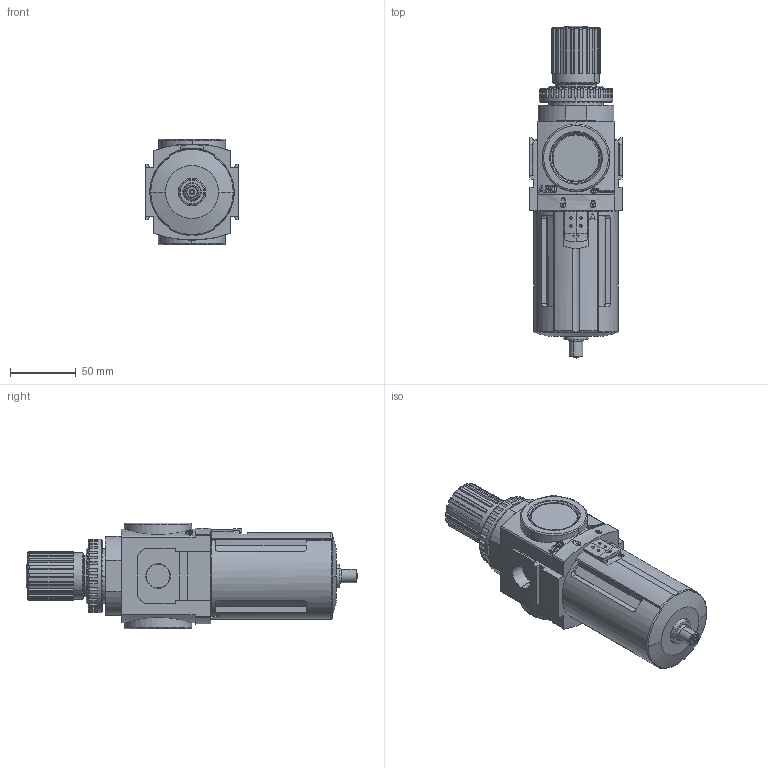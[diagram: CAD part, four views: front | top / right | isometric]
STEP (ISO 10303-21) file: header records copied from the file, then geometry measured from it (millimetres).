
FILE_DESCRIPTION(/* description */ (''),/* implementation_level */ '2;1');
FILE_NAME(/* name */ 'P393XX-X0X_02',/* time_stamp */ '2009-02-06T11:08:22-05:00',/* author */ (''),/* organization */ (''),/* preprocessor_version */ 'ST-DEVELOPER v9',/* originating_system */ 'UGS - NX 4.0',/* authorisation */ '');
FILE_SCHEMA (('AUTOMOTIVE_DESIGN { 1 0 10303 214 1 1 1 1 }'));
Length unit declared in the file: inch
Products named in the file (1): szeeA340nhkx
Bounding box: 70 x 251.78 x 80 mm (x, y, z)
Volume: 687501.9 mm3; surface area: 104384.6 mm2
Topology: 2 solids, 2 shells, 1395 faces, 3554 edges, 2286 vertices
Faces by surface type: plane 771, cylinder 382, bspline 84, cone 59, extrusion 51, torus 38, sphere 10
Full cylindrical faces by diameter (mm): 3.3 x1
Entity records: 59069 total; most frequent: CARTESIAN_POINT 17121, ORIENTED_EDGE 7090, DIRECTION 5971, EDGE_CURVE 3545, VERTEX_POINT 2282, AXIS2_PLACEMENT_3D 2003, VECTOR 1965, LINE 1914
